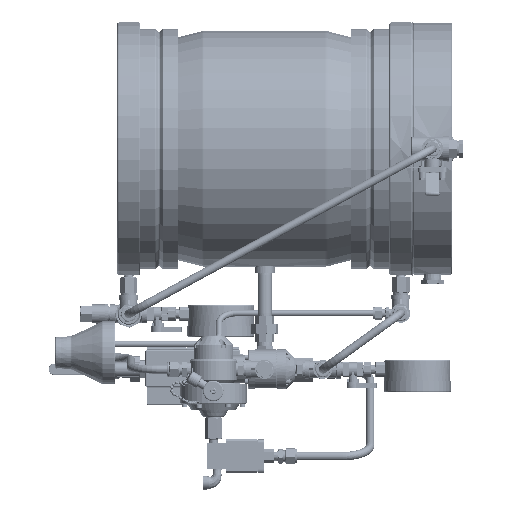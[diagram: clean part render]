
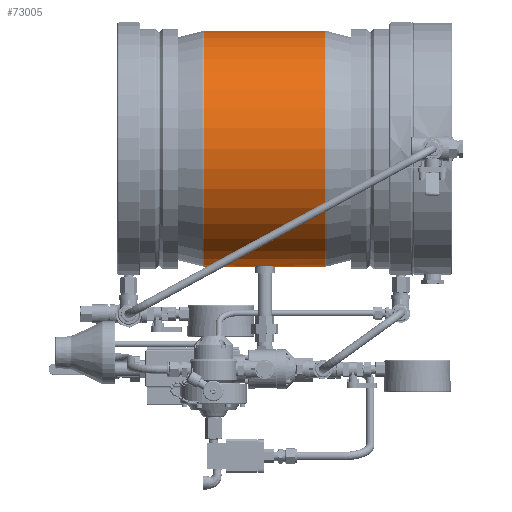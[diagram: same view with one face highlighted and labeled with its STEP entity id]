
A CAD part, front view. The second image highlights one B-rep face of the part: STEP entity #73005.
In plain terms, the highlighted cylindrical face has radius 177 mm (diameter 354 mm), a full revolution.
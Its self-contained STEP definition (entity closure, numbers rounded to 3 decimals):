
#2681=B_SPLINE_CURVE_WITH_KNOTS('',3,(#135962,#135963,#135964,#135965,#135966,
#135967,#135968,#135969,#135970,#135971,#135972,#135973,#135974,#135975,
#135976,#135977,#135978,#135979),.UNSPECIFIED.,.F.,.F.,(4,2,2,2,2,2,2,2,
4),(2.11,2.638,3.166,3.693,
4.221,4.748,5.276,5.804,6.331),
 .UNSPECIFIED.);
#2682=B_SPLINE_CURVE_WITH_KNOTS('',3,(#135980,#135981,#135982,#135983,#135984,
#135985,#135986,#135987,#135988,#135989,#135990,#135991,#135992,#135993,
#135994,#135995,#135996,#135997,#135998),.UNSPECIFIED.,.F.,.F.,(4,2,2,2,
3,2,2,2,4),(6.331,6.859,7.386,7.914,
8.442,8.969,9.497,10.024,10.552),
 .UNSPECIFIED.);
#3473=CYLINDRICAL_SURFACE('',#82254,177.);
#18369=FACE_BOUND('',#28249,.T.);
#18370=FACE_BOUND('',#28250,.T.);
#22444=FACE_OUTER_BOUND('',#28248,.T.);
#28248=EDGE_LOOP('',(#64579));
#28249=EDGE_LOOP('',(#64580,#64581));
#28250=EDGE_LOOP('',(#64582));
#31874=CIRCLE('',#82252,177.);
#31876=CIRCLE('',#82255,177.);
#37983=VERTEX_POINT('',#135960);
#37984=VERTEX_POINT('',#135961);
#37998=VERTEX_POINT('',#136069);
#38000=VERTEX_POINT('',#136074);
#47134=EDGE_CURVE('',#37983,#37984,#2681,.T.);
#47135=EDGE_CURVE('',#37984,#37983,#2682,.T.);
#47149=EDGE_CURVE('',#37998,#37998,#31874,.T.);
#47151=EDGE_CURVE('',#38000,#38000,#31876,.T.);
#64579=ORIENTED_EDGE('',*,*,#47151,.F.);
#64580=ORIENTED_EDGE('',*,*,#47134,.T.);
#64581=ORIENTED_EDGE('',*,*,#47135,.T.);
#64582=ORIENTED_EDGE('',*,*,#47149,.F.);
#73005=ADVANCED_FACE('',(#22444,#18369,#18370),#3473,.T.);
#82252=AXIS2_PLACEMENT_3D('',#136070,#99483,#99484);
#82254=AXIS2_PLACEMENT_3D('',#136073,#99487,#99488);
#82255=AXIS2_PLACEMENT_3D('',#136075,#99489,#99490);
#99483=DIRECTION('center_axis',(1.,0.,0.));
#99484=DIRECTION('ref_axis',(0.,-1.,0.));
#99487=DIRECTION('center_axis',(1.,0.,0.));
#99488=DIRECTION('ref_axis',(0.,1.,0.));
#99489=DIRECTION('center_axis',(-1.,0.,0.));
#99490=DIRECTION('ref_axis',(0.,-1.,0.));
#135960=CARTESIAN_POINT('',(164.5,-166.,177.));
#135961=CARTESIAN_POINT('',(192.5,-166.,177.));
#135962=CARTESIAN_POINT('Ctrl Pts',(164.5,-166.,177.));
#135963=CARTESIAN_POINT('Ctrl Pts',(164.5,-164.241,177.));
#135964=CARTESIAN_POINT('Ctrl Pts',(164.852,-162.366,
176.971));
#135965=CARTESIAN_POINT('Ctrl Pts',(166.281,-158.917,
176.867));
#135966=CARTESIAN_POINT('Ctrl Pts',(167.358,-157.343,
176.793));
#135967=CARTESIAN_POINT('Ctrl Pts',(169.843,-154.858,
176.653));
#135968=CARTESIAN_POINT('Ctrl Pts',(171.417,-153.781,176.579));
#135969=CARTESIAN_POINT('Ctrl Pts',(174.866,-152.352,
176.474));
#135970=CARTESIAN_POINT('Ctrl Pts',(176.741,-152.,176.445));
#135971=CARTESIAN_POINT('Ctrl Pts',(180.259,-152.,176.445));
#135972=CARTESIAN_POINT('Ctrl Pts',(182.134,-152.352,
176.474));
#135973=CARTESIAN_POINT('Ctrl Pts',(185.583,-153.781,176.579));
#135974=CARTESIAN_POINT('Ctrl Pts',(187.157,-154.858,
176.653));
#135975=CARTESIAN_POINT('Ctrl Pts',(189.642,-157.343,
176.793));
#135976=CARTESIAN_POINT('Ctrl Pts',(190.719,-158.917,
176.867));
#135977=CARTESIAN_POINT('Ctrl Pts',(192.148,-162.366,
176.971));
#135978=CARTESIAN_POINT('Ctrl Pts',(192.5,-164.241,177.));
#135979=CARTESIAN_POINT('Ctrl Pts',(192.5,-166.,177.));
#135980=CARTESIAN_POINT('Ctrl Pts',(192.5,-166.,177.));
#135981=CARTESIAN_POINT('Ctrl Pts',(192.5,-167.759,177.));
#135982=CARTESIAN_POINT('Ctrl Pts',(192.148,-169.634,
176.971));
#135983=CARTESIAN_POINT('Ctrl Pts',(190.719,-173.083,
176.867));
#135984=CARTESIAN_POINT('Ctrl Pts',(189.642,-174.657,
176.793));
#135985=CARTESIAN_POINT('Ctrl Pts',(187.157,-177.142,
176.653));
#135986=CARTESIAN_POINT('Ctrl Pts',(185.583,-178.219,176.579));
#135987=CARTESIAN_POINT('Ctrl Pts',(182.134,-179.648,
176.474));
#135988=CARTESIAN_POINT('Ctrl Pts',(180.259,-180.,176.445));
#135989=CARTESIAN_POINT('Ctrl Pts',(178.5,-180.,176.445));
#135990=CARTESIAN_POINT('Ctrl Pts',(176.741,-180.,176.445));
#135991=CARTESIAN_POINT('Ctrl Pts',(174.866,-179.648,
176.474));
#135992=CARTESIAN_POINT('Ctrl Pts',(171.417,-178.219,
176.579));
#135993=CARTESIAN_POINT('Ctrl Pts',(169.843,-177.142,
176.653));
#135994=CARTESIAN_POINT('Ctrl Pts',(167.358,-174.657,
176.793));
#135995=CARTESIAN_POINT('Ctrl Pts',(166.281,-173.083,
176.867));
#135996=CARTESIAN_POINT('Ctrl Pts',(164.852,-169.634,
176.971));
#135997=CARTESIAN_POINT('Ctrl Pts',(164.5,-167.759,177.));
#135998=CARTESIAN_POINT('Ctrl Pts',(164.5,-166.,177.));
#136069=CARTESIAN_POINT('',(269.621,11.,0.));
#136070=CARTESIAN_POINT('Origin',(269.621,-166.,0.));
#136073=CARTESIAN_POINT('Origin',(178.5,-166.,0.));
#136074=CARTESIAN_POINT('',(87.379,11.,0.));
#136075=CARTESIAN_POINT('Origin',(87.379,-166.,0.));
